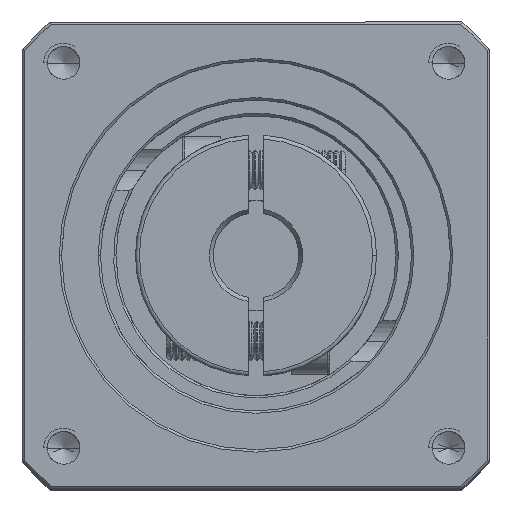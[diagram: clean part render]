
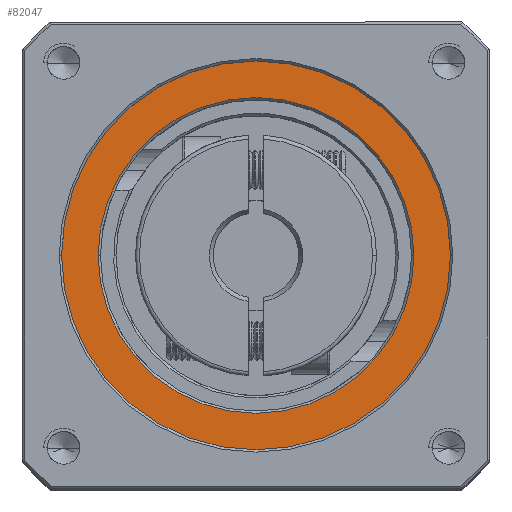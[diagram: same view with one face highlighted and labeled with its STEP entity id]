
A CAD part, top view. The second image highlights one B-rep face of the part: STEP entity #82047.
In plain terms, the highlighted planar face has unit normal (0, 0, 1).
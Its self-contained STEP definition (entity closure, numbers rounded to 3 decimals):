
#5499 = ORIENTED_EDGE ( 'NONE', *, *, #40867, .T. ) ;
#7578 = EDGE_CURVE ( 'NONE', #75311, #14201, #63833, .T. ) ;
#8297 = CARTESIAN_POINT ( 'NONE',  ( -60.605, 13.236, 12.959 ) ) ;
#8431 = CIRCLE ( 'NONE', #81164, 25. ) ;
#8667 = DIRECTION ( 'NONE',  ( 0., 0., -1. ) ) ;
#9197 = AXIS2_PLACEMENT_3D ( 'NONE', #71177, #105488, #80433 ) ;
#11119 = EDGE_LOOP ( 'NONE', ( #5499, #24195 ) ) ;
#14201 = VERTEX_POINT ( 'NONE', #72605 ) ;
#15934 = EDGE_CURVE ( 'NONE', #14201, #75311, #38846, .T. ) ;
#16597 = CIRCLE ( 'NONE', #43400, 25. ) ;
#18650 = FACE_BOUND ( 'NONE', #97546, .T. ) ;
#18934 = ORIENTED_EDGE ( 'NONE', *, *, #15934, .T. ) ;
#19529 = CARTESIAN_POINT ( 'NONE',  ( -35.605, 13.236, 12.959 ) ) ;
#21490 = EDGE_CURVE ( 'NONE', #98865, #105726, #8431, .T. ) ;
#21612 = ORIENTED_EDGE ( 'NONE', *, *, #7578, .T. ) ;
#23099 = AXIS2_PLACEMENT_3D ( 'NONE', #8297, #8667, #34850 ) ;
#24089 = DIRECTION ( 'NONE',  ( 0., 0., 1. ) ) ;
#24195 = ORIENTED_EDGE ( 'NONE', *, *, #21490, .T. ) ;
#31513 = CARTESIAN_POINT ( 'NONE',  ( -80.905, 13.236, 12.959 ) ) ;
#34850 = DIRECTION ( 'NONE',  ( 1., 0., 0. ) ) ;
#38846 = CIRCLE ( 'NONE', #9197, 20.3 ) ;
#40867 = EDGE_CURVE ( 'NONE', #105726, #98865, #16597, .T. ) ;
#42003 = CARTESIAN_POINT ( 'NONE',  ( -60.605, 13.236, 12.959 ) ) ;
#43400 = AXIS2_PLACEMENT_3D ( 'NONE', #58844, #109382, #84361 ) ;
#51038 = DIRECTION ( 'NONE',  ( 1., 0., 0. ) ) ;
#58844 = CARTESIAN_POINT ( 'NONE',  ( -60.605, 13.236, 12.959 ) ) ;
#63833 = CIRCLE ( 'NONE', #23099, 20.3 ) ;
#69046 = DIRECTION ( 'NONE',  ( 0., 0., 1. ) ) ;
#71177 = CARTESIAN_POINT ( 'NONE',  ( -60.605, 13.236, 12.959 ) ) ;
#72605 = CARTESIAN_POINT ( 'NONE',  ( -40.305, 13.236, 12.959 ) ) ;
#73003 = AXIS2_PLACEMENT_3D ( 'NONE', #84648, #69046, #51038 ) ;
#75311 = VERTEX_POINT ( 'NONE', #31513 ) ;
#75870 = DIRECTION ( 'NONE',  ( 1., 0., 0. ) ) ;
#77195 = PLANE ( 'NONE',  #73003 ) ;
#80433 = DIRECTION ( 'NONE',  ( 1., 0., 0. ) ) ;
#81164 = AXIS2_PLACEMENT_3D ( 'NONE', #42003, #24089, #75870 ) ;
#82047 = ADVANCED_FACE ( 'NONE', ( #18650, #104179 ), #77195, .T. ) ;
#84361 = DIRECTION ( 'NONE',  ( 1., 0., 0. ) ) ;
#84648 = CARTESIAN_POINT ( 'NONE',  ( -60.605, 13.236, 12.959 ) ) ;
#95445 = CARTESIAN_POINT ( 'NONE',  ( -85.605, 13.236, 12.959 ) ) ;
#97546 = EDGE_LOOP ( 'NONE', ( #18934, #21612 ) ) ;
#98865 = VERTEX_POINT ( 'NONE', #95445 ) ;
#104179 = FACE_OUTER_BOUND ( 'NONE', #11119, .T. ) ;
#105488 = DIRECTION ( 'NONE',  ( 0., 0., -1. ) ) ;
#105726 = VERTEX_POINT ( 'NONE', #19529 ) ;
#109382 = DIRECTION ( 'NONE',  ( 0., 0., 1. ) ) ;
